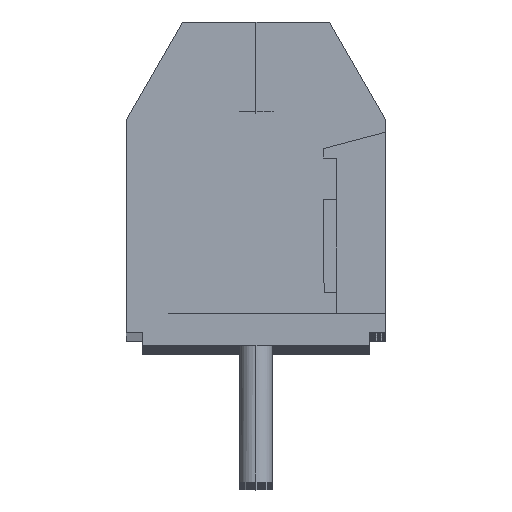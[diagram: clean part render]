
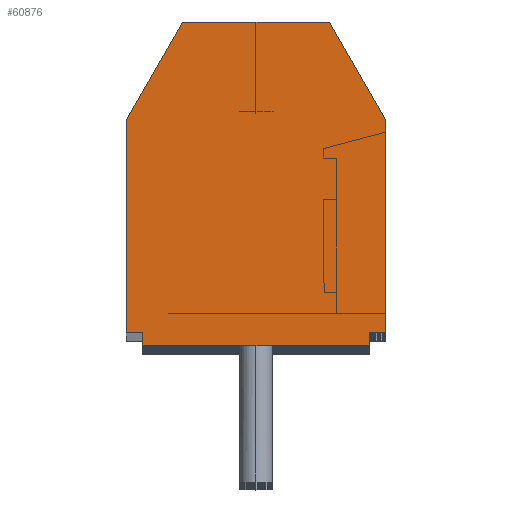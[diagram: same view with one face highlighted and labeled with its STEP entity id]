
A CAD part, top view. The second image highlights one B-rep face of the part: STEP entity #60876.
In plain terms, the highlighted planar face has unit normal (0, 0, 1).
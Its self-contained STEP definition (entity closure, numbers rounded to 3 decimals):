
#76 = DIRECTION ( 'NONE',  ( 0., -1., 0. ) ) ;
#77 = VECTOR ( 'NONE', #76, 1000. ) ;
#78 = CARTESIAN_POINT ( 'NONE',  ( -3.062, -3.045, 0. ) ) ;
#79 = LINE ( 'NONE', #78, #77 ) ;
#166 = CARTESIAN_POINT ( 'NONE',  ( -3.062, -3.245, 0. ) ) ;
#167 = CARTESIAN_POINT ( 'NONE',  ( -3.062, -2.845, 0. ) ) ;
#4430 = CARTESIAN_POINT ( 'NONE',  ( -3.562, -2.845, 0. ) ) ;
#4431 = DIRECTION ( 'NONE',  ( -1., 0., 0. ) ) ;
#4432 = VECTOR ( 'NONE', #4431, 1000. ) ;
#4433 = CARTESIAN_POINT ( 'NONE',  ( -3.562, -2.845, 0. ) ) ;
#4440 = LINE ( 'NONE', #4433, #4432 ) ;
#17326 = DIRECTION ( 'NONE',  ( 1., 0., 0. ) ) ;
#17327 = VECTOR ( 'NONE', #17326, 1000. ) ;
#17328 = CARTESIAN_POINT ( 'NONE',  ( 0.438, -3.245, 0. ) ) ;
#17329 = LINE ( 'NONE', #17328, #17327 ) ;
#17330 = CARTESIAN_POINT ( 'NONE',  ( 3.938, -3.245, 0. ) ) ;
#17357 = DIRECTION ( 'NONE',  ( 1., 0., 0. ) ) ;
#17358 = VECTOR ( 'NONE', #17357, 1000. ) ;
#17359 = CARTESIAN_POINT ( 'NONE',  ( 0.438, -2.845, 0. ) ) ;
#17360 = LINE ( 'NONE', #17359, #17358 ) ;
#17362 = CARTESIAN_POINT ( 'NONE',  ( 4.438, -2.845, 0. ) ) ;
#17387 = DIRECTION ( 'NONE',  ( 0., 1., 0. ) ) ;
#17388 = VECTOR ( 'NONE', #17387, 1000. ) ;
#17389 = CARTESIAN_POINT ( 'NONE',  ( 4.438, -3.245, 0. ) ) ;
#17390 = LINE ( 'NONE', #17389, #17388 ) ;
#17391 = CARTESIAN_POINT ( 'NONE',  ( 4.438, 3.755, 0. ) ) ;
#17418 = CARTESIAN_POINT ( 'NONE',  ( 3.938, -2.845, 0. ) ) ;
#17430 = DIRECTION ( 'NONE',  ( 0., 1., 0. ) ) ;
#17431 = VECTOR ( 'NONE', #17430, 1000. ) ;
#17432 = CARTESIAN_POINT ( 'NONE',  ( 3.938, 1.755, 0. ) ) ;
#17433 = LINE ( 'NONE', #17432, #17431 ) ;
#17882 = DIRECTION ( 'NONE',  ( 0., -1., 0. ) ) ;
#17883 = VECTOR ( 'NONE', #17882, 1000. ) ;
#17884 = CARTESIAN_POINT ( 'NONE',  ( -3.562, 1.755, 0. ) ) ;
#17885 = LINE ( 'NONE', #17884, #17883 ) ;
#17915 = CARTESIAN_POINT ( 'NONE',  ( -3.562, 3.755, 0. ) ) ;
#23551 = DIRECTION ( 'NONE',  ( 1., 0., 0. ) ) ;
#23552 = DIRECTION ( 'NONE',  ( 0., 0., 1. ) ) ;
#23553 = CARTESIAN_POINT ( 'NONE',  ( -3.562, -3.245, 0. ) ) ;
#23554 = AXIS2_PLACEMENT_3D ( 'NONE', #23553, #23552, #23551 ) ;
#23555 = PLANE ( 'NONE',  #23554 ) ;
#23556 = FACE_OUTER_BOUND ( 'NONE', #60877, .T. ) ;
#23557 = DIRECTION ( 'NONE',  ( -0.5, -0.866, 0. ) ) ;
#23558 = VECTOR ( 'NONE', #23557, 1000. ) ;
#23559 = CARTESIAN_POINT ( 'NONE',  ( -1.83, 6.755, 0. ) ) ;
#23560 = LINE ( 'NONE', #23559, #23558 ) ;
#23579 = CARTESIAN_POINT ( 'NONE',  ( -1.83, 6.755, 0. ) ) ;
#23631 = DIRECTION ( 'NONE',  ( 1., 0., 0. ) ) ;
#23632 = VECTOR ( 'NONE', #23631, 1000. ) ;
#23633 = CARTESIAN_POINT ( 'NONE',  ( 2.706, 6.755, 0. ) ) ;
#23634 = LINE ( 'NONE', #23633, #23632 ) ;
#23635 = CARTESIAN_POINT ( 'NONE',  ( 2.706, 6.755, 0. ) ) ;
#23636 = DIRECTION ( 'NONE',  ( 0.5, -0.866, 0. ) ) ;
#23637 = VECTOR ( 'NONE', #23636, 1000. ) ;
#23638 = CARTESIAN_POINT ( 'NONE',  ( 3.572, 5.255, 0. ) ) ;
#23639 = LINE ( 'NONE', #23638, #23637 ) ;
#43883 = EDGE_CURVE ( 'NONE', #43994, #43995, #79, .T. ) ;
#43994 = VERTEX_POINT ( 'NONE', #167 ) ;
#43995 = VERTEX_POINT ( 'NONE', #166 ) ;
#49630 = EDGE_CURVE ( 'NONE', #43994, #49633, #4440, .T. ) ;
#49633 = VERTEX_POINT ( 'NONE', #4430 ) ;
#56885 = VERTEX_POINT ( 'NONE', #17330 ) ;
#56887 = EDGE_CURVE ( 'NONE', #43995, #56885, #17329, .T. ) ;
#56901 = VERTEX_POINT ( 'NONE', #17362 ) ;
#56903 = EDGE_CURVE ( 'NONE', #56904, #56901, #17360, .T. ) ;
#56904 = VERTEX_POINT ( 'NONE', #17418 ) ;
#56930 = VERTEX_POINT ( 'NONE', #17391 ) ;
#56932 = EDGE_CURVE ( 'NONE', #56901, #56930, #17390, .T. ) ;
#56954 = EDGE_CURVE ( 'NONE', #56885, #56904, #17433, .T. ) ;
#57396 = EDGE_CURVE ( 'NONE', #57418, #49633, #17885, .T. ) ;
#57418 = VERTEX_POINT ( 'NONE', #17915 ) ;
#60874 = EDGE_CURVE ( 'NONE', #60895, #57418, #23560, .T. ) ;
#60876 = ADVANCED_FACE ( 'NONE', ( #23556 ), #23555, .T. ) ;
#60877 = EDGE_LOOP ( 'NONE', ( #60878, #60879, #60880, #60881, #60939, #60942, #60944, #60945, #60946, #60947 ) ) ;
#60878 = ORIENTED_EDGE ( 'NONE', *, *, #56887, .T. ) ;
#60879 = ORIENTED_EDGE ( 'NONE', *, *, #56954, .T. ) ;
#60880 = ORIENTED_EDGE ( 'NONE', *, *, #56903, .T. ) ;
#60881 = ORIENTED_EDGE ( 'NONE', *, *, #56932, .T. ) ;
#60895 = VERTEX_POINT ( 'NONE', #23579 ) ;
#60939 = ORIENTED_EDGE ( 'NONE', *, *, #60940, .F. ) ;
#60940 = EDGE_CURVE ( 'NONE', #60941, #56930, #23639, .T. ) ;
#60941 = VERTEX_POINT ( 'NONE', #23635 ) ;
#60942 = ORIENTED_EDGE ( 'NONE', *, *, #60943, .F. ) ;
#60943 = EDGE_CURVE ( 'NONE', #60895, #60941, #23634, .T. ) ;
#60944 = ORIENTED_EDGE ( 'NONE', *, *, #60874, .T. ) ;
#60945 = ORIENTED_EDGE ( 'NONE', *, *, #57396, .T. ) ;
#60946 = ORIENTED_EDGE ( 'NONE', *, *, #49630, .F. ) ;
#60947 = ORIENTED_EDGE ( 'NONE', *, *, #43883, .T. ) ;
